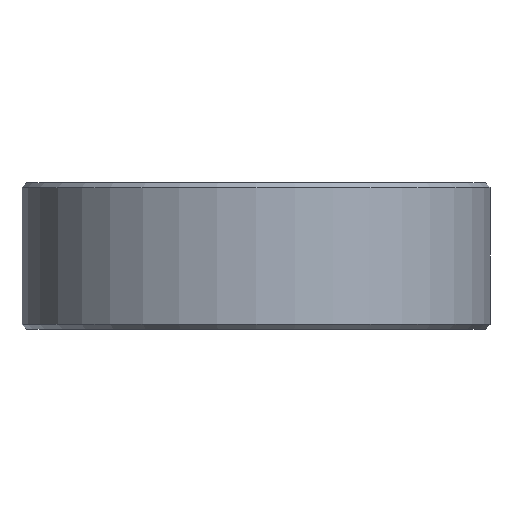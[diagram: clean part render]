
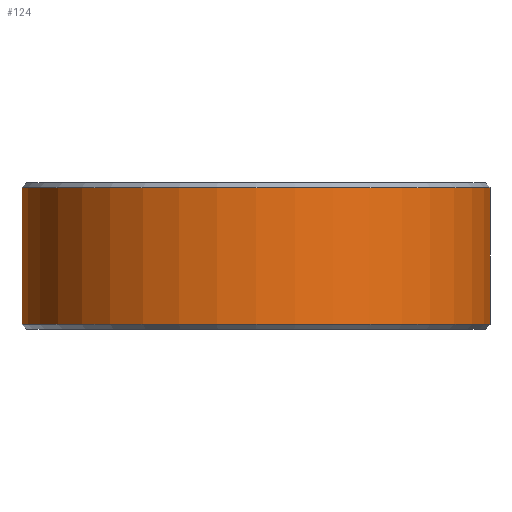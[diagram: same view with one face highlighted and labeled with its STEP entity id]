
A CAD part, front view. The second image highlights one B-rep face of the part: STEP entity #124.
In plain terms, the highlighted cylindrical face has radius 24 mm (diameter 48 mm), a partial arc.
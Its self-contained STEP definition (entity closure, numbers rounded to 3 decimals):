
#124 = ADVANCED_FACE( '', ( #259 ), #260, .T. );
#259 = FACE_OUTER_BOUND( '', #403, .T. );
#260 = CYLINDRICAL_SURFACE( '', #404, 24. );
#403 = EDGE_LOOP( '', ( #752, #753, #754, #755 ) );
#404 = AXIS2_PLACEMENT_3D( '', #756, #757, #758 );
#752 = ORIENTED_EDGE( '', *, *, #913, .T. );
#753 = ORIENTED_EDGE( '', *, *, #813, .T. );
#754 = ORIENTED_EDGE( '', *, *, #910, .F. );
#755 = ORIENTED_EDGE( '', *, *, #914, .T. );
#756 = CARTESIAN_POINT( '', ( 0., 0., 7.5 ) );
#757 = DIRECTION( '', ( 0., 0., -1. ) );
#758 = DIRECTION( '', ( 1., 0., 0. ) );
#813 = EDGE_CURVE( '', #929, #927, #930, .T. );
#910 = EDGE_CURVE( '', #1099, #927, #1100, .T. );
#913 = EDGE_CURVE( '', #1104, #929, #1105, .T. );
#914 = EDGE_CURVE( '', #1099, #1104, #1106, .F. );
#927 = VERTEX_POINT( '', #1124 );
#929 = VERTEX_POINT( '', #1129 );
#930 = LINE( '', #1130, #1131 );
#1099 = VERTEX_POINT( '', #1529 );
#1100 = CIRCLE( '', #1530, 24. );
#1104 = VERTEX_POINT( '', #1537 );
#1105 = CIRCLE( '', #1538, 24. );
#1106 = LINE( '', #1539, #1540 );
#1124 = CARTESIAN_POINT( '', ( 23.953, -1.5, 7. ) );
#1129 = CARTESIAN_POINT( '', ( 23.953, -1.5, -7. ) );
#1130 = CARTESIAN_POINT( '', ( 23.953, -1.5, 7.5 ) );
#1131 = VECTOR( '', #1553, 1000. );
#1529 = CARTESIAN_POINT( '', ( -23.953, -1.5, 7. ) );
#1530 = AXIS2_PLACEMENT_3D( '', #1706, #1707, #1708 );
#1537 = CARTESIAN_POINT( '', ( -23.953, -1.5, -7. ) );
#1538 = AXIS2_PLACEMENT_3D( '', #1712, #1713, #1714 );
#1539 = CARTESIAN_POINT( '', ( -23.953, -1.5, 7.5 ) );
#1540 = VECTOR( '', #1715, 1000. );
#1553 = DIRECTION( '', ( 0., 0., 1. ) );
#1706 = CARTESIAN_POINT( '', ( 0., 0., 7. ) );
#1707 = DIRECTION( '', ( 0., 0., 1. ) );
#1708 = DIRECTION( '', ( 1., 0., 0. ) );
#1712 = CARTESIAN_POINT( '', ( 0., 0., -7. ) );
#1713 = DIRECTION( '', ( 0., 0., 1. ) );
#1714 = DIRECTION( '', ( 1., 0., 0. ) );
#1715 = DIRECTION( '', ( 0., 0., 1. ) );
